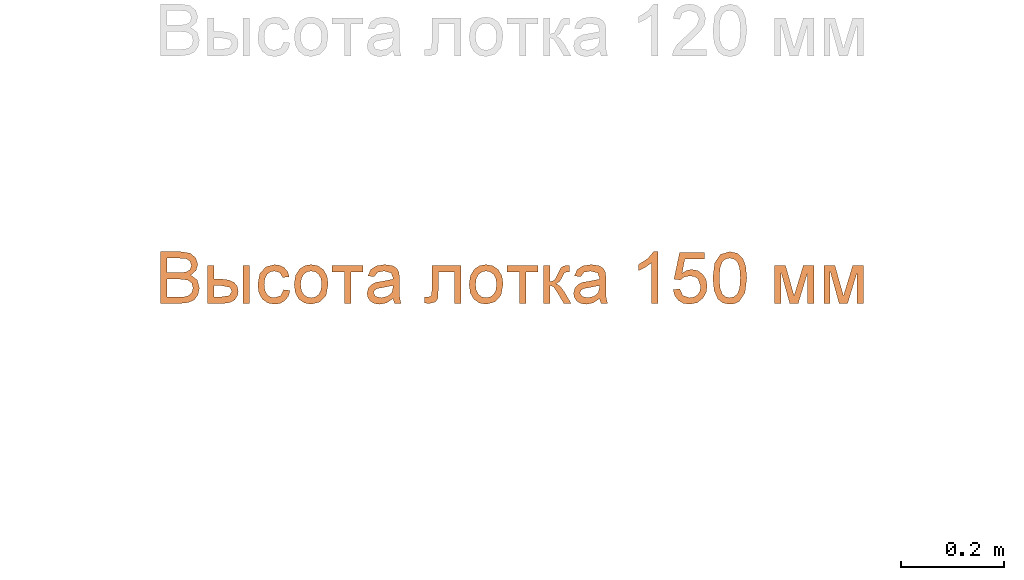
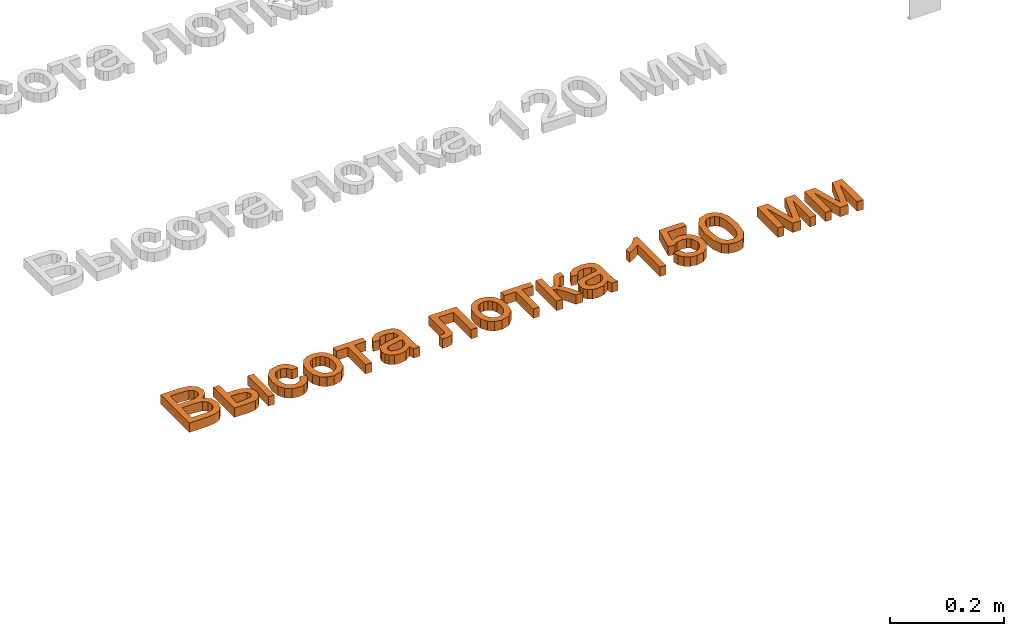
# One storey, part 18 of 71: 1 proxy.
"""IFC2X3 building model written with IfcOpenShell, lengths in millimetres."""

from ifc_helpers import new_model, entity, si_unit, converted_unit, derived_unit, direction, frame, frame_2d, origin, place, context, subcontext, project, spatial, polyline, rectangle, outline, extrude, element, save


model = new_model("IFC2X3")

# Units and contexts
model_context = context("Model", 3, precision=0.01, world=origin(), true_north=direction((6.12303176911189e-17, 1.0)))
body_context = subcontext(model_context, "Body", "Model", "MODEL_VIEW")
ifc_project = project(units=[si_unit("LENGTHUNIT", "METRE", prefix="MILLI"), si_unit("AREAUNIT", "SQUARE_METRE"), si_unit("VOLUMEUNIT", "CUBIC_METRE"), converted_unit("PLANEANGLEUNIT", "DEGREE", entity("IfcRatioMeasure", 0.0174532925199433), si_unit("PLANEANGLEUNIT", "RADIAN"), dimensions=[0, 0, 0, 0, 0, 0, 0]), si_unit("MASSUNIT", "GRAM", prefix="KILO"), derived_unit("MASSDENSITYUNIT", [(si_unit("MASSUNIT", "GRAM", prefix="KILO"), 1), (si_unit("LENGTHUNIT", "METRE"), -3)]), si_unit("TIMEUNIT", "SECOND"), si_unit("FREQUENCYUNIT", "HERTZ"), si_unit("THERMODYNAMICTEMPERATUREUNIT", "DEGREE_CELSIUS"), derived_unit("THERMALTRANSMITTANCEUNIT", [(si_unit("MASSUNIT", "GRAM", prefix="KILO"), 1), (si_unit("THERMODYNAMICTEMPERATUREUNIT", "KELVIN"), -1), (si_unit("TIMEUNIT", "SECOND"), -3)]), derived_unit("VOLUMETRICFLOWRATEUNIT", [(si_unit("LENGTHUNIT", "METRE"), 3), (si_unit("TIMEUNIT", "SECOND"), -1)]), si_unit("ELECTRICCURRENTUNIT", "AMPERE"), si_unit("ELECTRICVOLTAGEUNIT", "VOLT"), si_unit("POWERUNIT", "WATT"), si_unit("FORCEUNIT", "NEWTON", prefix="KILO"), si_unit("ILLUMINANCEUNIT", "LUX"), si_unit("LUMINOUSFLUXUNIT", "LUMEN"), si_unit("LUMINOUSINTENSITYUNIT", "CANDELA"), derived_unit("USERDEFINED", [(si_unit("MASSUNIT", "GRAM", prefix="KILO"), -1), (si_unit("LENGTHUNIT", "METRE"), -2), (si_unit("TIMEUNIT", "SECOND"), 3), (si_unit("LUMINOUSFLUXUNIT", "LUMEN"), 1)]), derived_unit("LINEARVELOCITYUNIT", [(si_unit("LENGTHUNIT", "METRE"), 1), (si_unit("TIMEUNIT", "SECOND"), -1)]), si_unit("PRESSUREUNIT", "PASCAL"), derived_unit("USERDEFINED", [(si_unit("LENGTHUNIT", "METRE"), -2), (si_unit("MASSUNIT", "GRAM", prefix="KILO"), 1), (si_unit("TIMEUNIT", "SECOND"), -2)])], contexts=[model_context])

# Site, building, storey
site_placement = place(None, origin())
site = spatial("IfcSite", under=ifc_project, at=site_placement, Name="Default", CompositionType="ELEMENT")
building_placement = place(site_placement, origin())
building = spatial("IfcBuilding", under=site, at=building_placement, Name="Наименование здания", CompositionType="ELEMENT")
storey_placement = place(building_placement, origin())
storey = spatial("IfcBuildingStorey", under=building, at=storey_placement, Name="Этаж 01", CompositionType="ELEMENT", Elevation=0.0)

# Proxy
proxy_placement = place(storey_placement, origin())
element("IfcBuildingElementProxy", 1, at=proxy_placement, inside=storey, Name="Текст модели:100 мм Arial", ObjectType="Текст модели:100 мм Arial", context=body_context, shape_type="SweptSolid", body=[
    extrude(outline(polyline([(-52.8068326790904, -48.6909338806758), (-14.7678343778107, -48.6909338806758), (1.33313427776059, -46.9618885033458), (12.2592295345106, -41.8605915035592), (19.5800812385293, -32.2466086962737), (22.5353999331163, -18.7453394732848), (18.206655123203, -3.12261741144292), (5.83355735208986, 6.24611073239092), (16.0238886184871, 15.1365922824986), (19.3961402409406, 26.8720279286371), (15.3862264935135, 39.7233722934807), (4.30071570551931, 48.8100575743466), (-14.4735287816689, 51.7653762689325), (-52.8068326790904, 51.7653762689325), (-52.8068326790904, -48.6909338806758)]), holes=[polyline([(-40.2497939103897, 10.9550002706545), (-40.2497939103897, 39.2083375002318), (-19.0597909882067, 39.2083375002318), (-2.92203413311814, 37.8962250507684), (4.31297843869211, 33.0524454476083), (6.83910147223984, 24.8609396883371), (4.12903744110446, 16.6816966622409), (-3.92757825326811, 12.0341207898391), (-17.3184828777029, 10.9550002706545), (-40.2497939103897, 10.9550002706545)]), polyline([(-40.2497939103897, -36.133895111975), (-40.2497939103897, -1.60203849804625), (-15.7243275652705, -1.60203849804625), (-0.211970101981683, -3.28203294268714), (7.57486546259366, -9.10683119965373), (9.97836116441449, -18.8679668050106), (7.93048472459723, -27.3292526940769), (2.70656039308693, -32.9087962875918), (-5.17837703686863, -35.6433857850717), (-14.4980542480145, -36.133895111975), (-40.2497939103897, -36.133895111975)])]), frame((5929.87567637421, -13417.8794073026, 0.0)), (0.0, 0.0, 1.0), 20.0),
    extrude(outline(polyline([(-42.3988715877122, -34.5139341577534), (31.3737311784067, -34.5139341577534), (31.3737311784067, -3.73447389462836), (29.6538828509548, 9.31613988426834), (24.4943378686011, 18.2526066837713), (16.9129030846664, 23.412151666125), (7.92738535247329, 25.1319999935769), (-1.94104916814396, 23.0810578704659), (-9.4243820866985, 16.928231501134), (-14.1424686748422, 6.98622058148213), (-15.7151642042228, -6.43227519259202), (-15.7151642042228, -21.9568953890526), (-42.3988715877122, -21.9568953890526), (-42.3988715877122, -34.5139341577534)]), holes=[polyline([(18.816692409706, -21.9568953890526), (-3.158125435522, -21.9568953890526), (-3.158125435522, -7.41329384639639), (0.22638892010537, 8.88387853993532), (7.95191081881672, 12.5749612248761), (16.1802047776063, 7.5962915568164), (18.816692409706, -9.05650009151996), (18.816692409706, -21.9568953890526)])]), frame((6002.62130892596, -13435.1966100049, 0.0), z_axis=(0.0, 0.0, 1.0), x_axis=(0.0, -1.0, 0.0)), (0.0, 0.0, 1.0), 20.0),
    extrude(outline(polyline([(0.267683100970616, -20.7200562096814), (-4.02278247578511, -32.6253015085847), (7.51957889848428, -34.5647704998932), (18.0242916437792, -32.5240986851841), (26.8500141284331, -26.8719753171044), (33.3554047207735, -17.9770896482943), (37.2076783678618, -4.9515490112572), (35.3403176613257, 7.71415747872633), (27.6846262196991, 19.1676933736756), (14.1719076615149, 28.556722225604), (-6.16200624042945, 34.5864889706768), (-23.4110955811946, 30.2307841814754), (-35.1302422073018, 17.0254849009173), (-38.5714296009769, 6.87231136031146), (-38.3156698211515, -2.77330902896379), (-34.4593562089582, -11.5597521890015), (-27.098882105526, -19.1353940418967), (-20.0099089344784, -8.65257858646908), (-25.7552259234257, 0.801697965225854), (-23.9806627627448, 11.2483121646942), (-18.9208808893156, 17.77946460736), (-11.8538304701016, 21.4126833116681), (-2.81100512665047, 21.531205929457), (8.17610151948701, 17.5182701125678), (18.0468481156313, 10.9639331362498), (23.3470531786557, 3.6582814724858), (24.6053297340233, -4.07586677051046), (22.3502908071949, -11.9156934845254), (13.555852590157, -20.7200562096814), (0.267683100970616, -20.7200562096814)])), frame((6097.30288009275, -13430.2595425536, 0.0), z_axis=(0.0, 0.0, -1.0), x_axis=(-0.45310996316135, -0.891454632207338, 0.0)), (0.0, 0.0, -1.0), 20.0),
    extrude(outline(polyline([(-2.34029740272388, -31.6984909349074), (14.2731811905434, -31.6984909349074), (27.1869525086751, -26.5873672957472), (35.9909592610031, -17.1811275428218), (40.2751441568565, -4.29577920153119), (38.1491713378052, 13.1690451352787), (27.2514955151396, 26.6485362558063), (5.67797919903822, 33.7446283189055), (-10.1280544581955, 33.6081083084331), (-22.8059382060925, 28.390056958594), (-31.6389568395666, 18.9754531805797), (-35.9103951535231, 6.2492758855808), (-35.5406401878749, -5.97109031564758), (-30.8535887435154, -16.7835237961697), (-19.5870121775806, -26.5692340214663), (-2.34029740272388, -31.6984909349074)]), holes=[polyline([(-0.642949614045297, -19.2566729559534), (-11.6948097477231, -16.2599663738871), (-19.0989004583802, -10.8341828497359), (-22.9822632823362, -3.6735675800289), (-23.4719397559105, 4.52763423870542), (-20.7783225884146, 12.2046648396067), (-15.0781786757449, 18.0357050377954), (-6.5660093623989, 21.2863283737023), (4.56368400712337, 21.2221083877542), (15.8675929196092, 18.1905150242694), (23.3961896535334, 12.7474982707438), (27.3267847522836, 5.59272509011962), (27.8366887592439, -2.57413755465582), (25.1317228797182, -10.3331599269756), (19.4311586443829, -16.1672368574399), (10.8134498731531, -19.3753979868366), (-0.642949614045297, -19.2566729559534)])]), frame((6167.77778019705, -13427.6561924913, 0.0), z_axis=(0.0, 0.0, 1.0), x_axis=(0.137105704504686, -0.990556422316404, 0.0)), (0.0, 0.0, 1.0), 20.0),
    extrude(outline(polyline([(-24.7216700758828, -29.8229670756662), (-12.164631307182, -29.8229670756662), (-12.164631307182, -6.27851938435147), (49.0509326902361, -6.27851938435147), (49.0509326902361, 6.27851938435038), (-12.164631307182, 6.27851938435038), (-12.164631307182, 29.8229670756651), (-24.7216700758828, 29.8229670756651), (-24.7216700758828, -29.8229670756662)])), frame((6239.65333814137, -13417.5194084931, 0.0), z_axis=(0.0, 0.0, 1.0), x_axis=(0.0, -1.0, 0.0)), (0.0, 0.0, 1.0), 20.0),
    extrude(outline(polyline([(32.0508237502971, 7.88266535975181), (41.9780345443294, 7.88266535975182), (45.9489188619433, 19.7953183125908), (35.1414436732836, 20.7608946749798), (14.2438893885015, 27.0545912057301), (-0.577126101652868, 31.9949297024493), (-11.1945882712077, 34.8877809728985), (-20.4974705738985, 33.9299602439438), (-28.5323068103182, 27.5470739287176), (-35.4619652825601, 13.8157249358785), (-38.3044049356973, -2.69989645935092), (-34.9462156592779, -15.3493345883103), (-25.0306383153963, -24.3807697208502), (-19.5706723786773, -12.9644773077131), (-25.7868125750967, -4.50695904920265), (-24.0611841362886, 8.30922519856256), (-16.2279943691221, 20.330457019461), (-6.33956174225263, 20.679460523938), (-3.71040200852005, 19.7255176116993), (-6.50243004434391, -2.30048133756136), (-8.14662433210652, -13.2049019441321), (-7.01817966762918, -22.8490321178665), (-2.17478658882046, -31.1204151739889), (6.48825595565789, -36.5416029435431), (15.0010331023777, -37.7020395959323), (22.9495879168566, -35.3200906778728), (29.6378522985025, -29.3899394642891), (34.3697581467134, -19.9057692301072), (36.2737661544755, -6.36055543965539), (32.0508237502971, 7.88266535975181)]), holes=[polyline([(8.22551784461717, 15.8244339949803), (11.5759514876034, 14.6300664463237), (20.1614376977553, 9.67421668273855), (24.4696920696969, -0.396473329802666), (23.302469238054, -13.3987927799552), (17.2491973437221, -22.949855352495), (9.6215318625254, -24.349747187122), (5.58084684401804, -21.1932043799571), (3.98706417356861, -15.5044472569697), (5.4722679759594, -4.61166010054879), (8.22551784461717, 15.8244339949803)])]), frame((6309.9390961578, -13429.2391985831, 0.0), z_axis=(0.0, 0.0, 1.0), x_axis=(0.316227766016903, -0.948683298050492, 0.0)), (0.0, 0.0, 1.0), 20.0),
    extrude(outline(polyline([(-49.3689973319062, 12.5447760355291), (-49.3689973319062, -43.9618984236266), (24.3300290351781, -43.9618984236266), (24.3300290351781, -31.4048596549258), (-36.8119585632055, -31.4048596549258), (-36.8119585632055, -0.0122627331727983), (-1.6179143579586, -0.0122627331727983), (14.6179443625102, 0.833865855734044), (21.4728122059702, 5.48144172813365), (24.4036054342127, 16.4688506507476), (23.7659433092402, 26.6714446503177), (11.8465666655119, 26.6714446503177), (11.8465666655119, 21.0551128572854), (11.0740144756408, 15.3774673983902), (8.62146784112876, 13.1088617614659), (-2.32915288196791, 12.5447760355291), (-49.3689973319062, 12.5447760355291)])), frame((6415.43961817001, -13442.1667357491, 0.0), z_axis=(0.0, 0.0, -1.0), x_axis=(0.0, -1.0, 0.0)), (0.0, 0.0, -1.0), 20.0),
    extrude(outline(polyline([(-2.34029740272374, -31.6984909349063), (14.2731811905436, -31.6984909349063), (27.1869525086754, -26.5873672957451), (35.9909592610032, -17.1811275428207), (40.2751441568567, -4.29577920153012), (38.1491713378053, 13.1690451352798), (27.2514955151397, 26.6485362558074), (5.67797919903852, 33.7446283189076), (-10.1280544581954, 33.6081083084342), (-22.8059382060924, 28.3900569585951), (-31.6389568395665, 18.9754531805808), (-35.910395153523, 6.24927588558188), (-35.5406401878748, -5.9710903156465), (-30.8535887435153, -16.7835237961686), (-19.5870121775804, -26.5692340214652), (-2.34029740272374, -31.6984909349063)]), holes=[polyline([(-0.642949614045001, -19.2566729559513), (-11.6948097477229, -16.2599663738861), (-19.0989004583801, -10.8341828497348), (-22.9822632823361, -3.67356758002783), (-23.4719397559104, 4.5276342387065), (-20.7783225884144, 12.2046648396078), (-15.0781786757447, 18.0357050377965), (-6.56600936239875, 21.2863283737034), (4.56368400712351, 21.2221083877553), (15.8675929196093, 18.1905150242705), (23.3961896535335, 12.7474982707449), (27.3267847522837, 5.59272509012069), (27.8366887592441, -2.57413755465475), (25.1317228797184, -10.3331599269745), (19.4311586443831, -16.1672368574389), (10.8134498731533, -19.3753979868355), (-0.642949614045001, -19.2566729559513)])]), frame((6506.81782695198, -13427.6561924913, 0.0), z_axis=(0.0, 0.0, 1.0), x_axis=(0.137105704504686, -0.990556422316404, 0.0)), (0.0, 0.0, 1.0), 20.0),
    extrude(outline(polyline([(-24.7216700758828, -29.8229670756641), (-12.164631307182, -29.8229670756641), (-12.164631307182, -6.27851938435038), (49.0509326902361, -6.27851938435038), (49.0509326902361, 6.27851938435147), (-12.164631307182, 6.27851938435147), (-12.164631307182, 29.8229670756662), (-24.7216700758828, 29.8229670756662), (-24.7216700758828, -29.8229670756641)])), frame((6578.6933848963, -13417.5194084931, 0.0), z_axis=(0.0, 0.0, 1.0), x_axis=(0.0, -1.0, 0.0)), (0.0, 0.0, 1.0), 20.0),
    extrude(outline(polyline([(-30.3295712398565, -29.5353037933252), (43.4430315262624, -29.5353037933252), (43.4430315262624, -16.9782650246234), (8.91117491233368, -16.9782650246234), (11.2288314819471, -10.2337617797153), (20.8060260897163, -3.61188586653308), (43.4430315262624, 9.55828956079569), (43.4430315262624, 23.8321109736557), (20.3155167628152, 10.3921554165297), (10.0209522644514, 2.61758258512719), (5.13425309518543, -5.30414304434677), (0.75645735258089, 1.79597946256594), (-8.18307513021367, 6.86048826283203), (-16.4481572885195, 11.1769703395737), (-17.7725324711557, 17.3083369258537), (-17.6989560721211, 20.69285128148), (-30.3295712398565, 20.69285128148), (-30.3295712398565, 18.2893555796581), (-29.3730780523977, 9.10456843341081), (-25.6819953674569, 4.05232236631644), (-14.3389671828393, -1.67437402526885), (-1.19331722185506, -8.56603006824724), (1.06302568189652, -16.9782650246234), (-30.3295712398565, -16.9782650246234), (-30.3295712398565, -29.5353037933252)])), frame((6649.03906468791, -13423.127309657, 0.0), z_axis=(0.0, 0.0, 1.0), x_axis=(0.0, -1.0, 0.0)), (0.0, 0.0, 1.0), 20.0),
    extrude(rectangle(XDim=73.7726027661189, YDim=12.5570387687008, at=frame_2d((1.08357767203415e-12, 0.0), x_axis=(1.0, 0.0))), frame((6043.44960738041, -13429.6840398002, 0.0), z_axis=(0.0, 0.0, 1.0), x_axis=(0.0, -1.0, 0.0)), (0.0, 0.0, 1.0), 20.0),
    extrude(outline(polyline([(32.0508237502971, 7.88266535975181), (41.9780345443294, 7.88266535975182), (45.9489188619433, 19.7953183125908), (35.1414436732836, 20.7608946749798), (14.2438893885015, 27.0545912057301), (-0.577126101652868, 31.9949297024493), (-11.1945882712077, 34.8877809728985), (-20.4974705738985, 33.9299602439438), (-28.5323068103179, 27.5470739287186), (-35.4619652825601, 13.8157249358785), (-38.3044049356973, -2.69989645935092), (-34.9462156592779, -15.3493345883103), (-25.0306383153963, -24.3807697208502), (-19.5706723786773, -12.9644773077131), (-25.7868125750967, -4.50695904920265), (-24.0611841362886, 8.30922519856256), (-16.2279943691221, 20.330457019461), (-6.33956174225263, 20.679460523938), (-3.71040200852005, 19.7255176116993), (-6.50243004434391, -2.30048133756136), (-8.14662433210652, -13.2049019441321), (-7.01817966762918, -22.8490321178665), (-2.17478658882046, -31.1204151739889), (6.48825595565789, -36.5416029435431), (15.0010331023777, -37.7020395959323), (22.9495879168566, -35.3200906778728), (29.6378522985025, -29.3899394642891), (34.3697581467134, -19.9057692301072), (36.2737661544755, -6.36055543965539), (32.0508237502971, 7.88266535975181)]), holes=[polyline([(8.22551784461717, 15.8244339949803), (11.5759514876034, 14.6300664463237), (20.1614376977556, 9.67421668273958), (24.4696920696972, -0.396473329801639), (23.302469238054, -13.3987927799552), (17.2491973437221, -22.949855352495), (9.6215318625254, -24.349747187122), (5.58084684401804, -21.1932043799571), (3.98706417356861, -15.5044472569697), (5.4722679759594, -4.61166010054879), (8.22551784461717, 15.8244339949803)])]), frame((6710.19470691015, -13429.2391985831, 0.0), z_axis=(0.0, 0.0, 1.0), x_axis=(0.316227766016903, -0.948683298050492, 0.0)), (0.0, 0.0, 1.0), 20.0),
    extrude(outline(polyline([(-63.8793021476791, -16.9184842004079), (36.5770080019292, -16.9184842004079), (36.5770080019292, -8.825080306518), (23.2106288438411, 2.34626961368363), (11.4629304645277, 20.7526321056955), (-0.407395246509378, 20.7526321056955), (5.93243780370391, 7.53340574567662), (14.405986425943, -4.36144543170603), (-63.8793021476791, -4.36144543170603), (-63.8793021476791, -16.9184842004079)])), frame((6823.90308499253, -13402.6910390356, 0.0), z_axis=(0.0, 0.0, 1.0), x_axis=(0.0, 1.0, 0.0)), (0.0, 0.0, 1.0), 20.0),
    extrude(outline(polyline([(3.81439562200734, -37.2548959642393), (15.7323946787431, -37.2548959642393), (26.1588137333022, -33.0579698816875), (34.2921694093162, -25.0537205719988), (39.3309783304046, -13.6317508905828), (40.2219288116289, 1.4340909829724), (34.3991305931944, 14.6815107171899), (25.5350217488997, 23.1481891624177), (13.9054384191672, 28.2770976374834), (0.912111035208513, 29.4702838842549), (-10.7159258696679, 25.7768606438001), (-19.7427074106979, 18.0989984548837), (-24.9322687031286, 7.3388678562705), (-25.5937300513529, -2.21124798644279), (-22.6370240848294, -12.2793380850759), (-47.9924930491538, 0.0204883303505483), (-38.0977082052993, 37.2324069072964), (-50.2330599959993, 40.4592412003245), (-62.7370428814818, -6.56524698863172), (-15.5021967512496, -30.4943712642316), (-10.7584434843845, -18.7623737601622), (-14.4216298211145, -10.4922324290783), (-13.6981616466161, 0.722667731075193), (-9.98738154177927, 9.35727561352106), (-4.32553373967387, 14.6878856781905), (11.4370636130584, 15.9400687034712), (19.7481682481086, 12.2772427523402), (25.4355726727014, 6.40632241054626), (28.0665145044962, -1.27212018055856), (27.2082313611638, -10.3575128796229), (19.6530635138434, -21.9256319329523), (5.52431094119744, -24.7161898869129), (3.81439562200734, -37.2548959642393)])), frame((6905.66814764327, -13426.6267871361, 0.0), z_axis=(0.0, 0.0, 1.0), x_axis=(0.256974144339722, -0.966418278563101, 0.0)), (0.0, 0.0, 1.0), 20.0),
    extrude(outline(polyline([(-7.02884310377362, -33.3490673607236), (17.5323805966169, -33.3490673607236), (35.1984171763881, -27.6137612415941), (43.3439841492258, -18.4876517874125), (47.0516941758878, -5.75150665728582), (46.7162020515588, 4.48638208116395), (43.4465778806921, 13.0955287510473), (27.9444305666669, 25.6659118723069), (-0.314338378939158, 32.2325535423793), (-24.0296505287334, 32.3678288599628), (-39.414302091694, 28.0260881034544), (-49.7293680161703, 18.9002174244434), (-54.4436715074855, 4.63998875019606), (-50.8676582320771, -14.130105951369), (-35.4058547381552, -26.7333390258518), (-7.02884310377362, -33.3490673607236)]), holes=[polyline([(-5.7742877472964, -20.8548320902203), (-25.0157644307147, -17.3562860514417), (-36.7257089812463, -11.5717922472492), (-41.0962588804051, -4.77599682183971), (-41.96692192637, 3.21464792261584), (-39.2244253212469, 11.2791292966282), (-32.8654063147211, 17.2229259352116), (-20.9698370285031, 20.2947501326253), (-1.61768958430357, 19.7433141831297), (17.8514140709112, 16.2707701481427), (28.7803640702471, 10.7141596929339), (33.5546988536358, 3.61815959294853), (34.5599568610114, -4.472553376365), (31.9421230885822, -12.1923199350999), (25.8471825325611, -18.1754808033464), (14.0250679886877, -21.4027476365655), (-5.7742877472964, -20.8548320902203)])]), frame((6981.44793629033, -13420.747164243, 0.0), z_axis=(0.0, 0.0, 1.0), x_axis=(0.101851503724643, -0.994799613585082, 0.0)), (0.0, 0.0, 1.0), 20.0),
    extrude(outline(polyline([(-40.5839870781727, -38.4502715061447), (33.1886156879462, -38.4502715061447), (33.1886156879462, -25.8932327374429), (-29.0570178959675, -25.8932327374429), (33.1886156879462, -8.6273044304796), (33.1886156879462, 7.85380895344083), (-26.2120637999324, 25.9045521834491), (33.1886156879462, 25.9045521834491), (33.1886156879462, 38.4615909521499), (-40.5839870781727, 38.4615909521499), (-40.5839870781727, 17.7620973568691), (18.4733358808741, -0.190544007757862), (-40.5839870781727, -16.8433356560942), (-40.5839870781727, -38.4502715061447)])), frame((7105.2985385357, -13433.3817254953, 0.0), z_axis=(0.0, 0.0, 1.0), x_axis=(0.0, -1.0, 0.0)), (0.0, 0.0, 1.0), 20.0),
    extrude(outline(polyline([(-40.5839870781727, -38.4502715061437), (33.1886156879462, -38.4502715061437), (33.1886156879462, -25.8932327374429), (-29.0570178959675, -25.8932327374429), (33.1886156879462, -8.62730443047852), (33.1886156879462, 7.85380895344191), (-26.2120637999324, 25.9045521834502), (33.1886156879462, 25.9045521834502), (33.1886156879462, 38.461590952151), (-40.5839870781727, 38.461590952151), (-40.5839870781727, 17.7620973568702), (18.4733358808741, -0.190544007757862), (-40.5839870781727, -16.8433356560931), (-40.5839870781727, -38.4502715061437)])), frame((7201.04595914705, -13433.3817254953, 0.0), z_axis=(0.0, 0.0, 1.0), x_axis=(0.0, -1.0, 0.0)), (0.0, 0.0, 1.0), 20.0),
])

save(model, "model.ifc")
